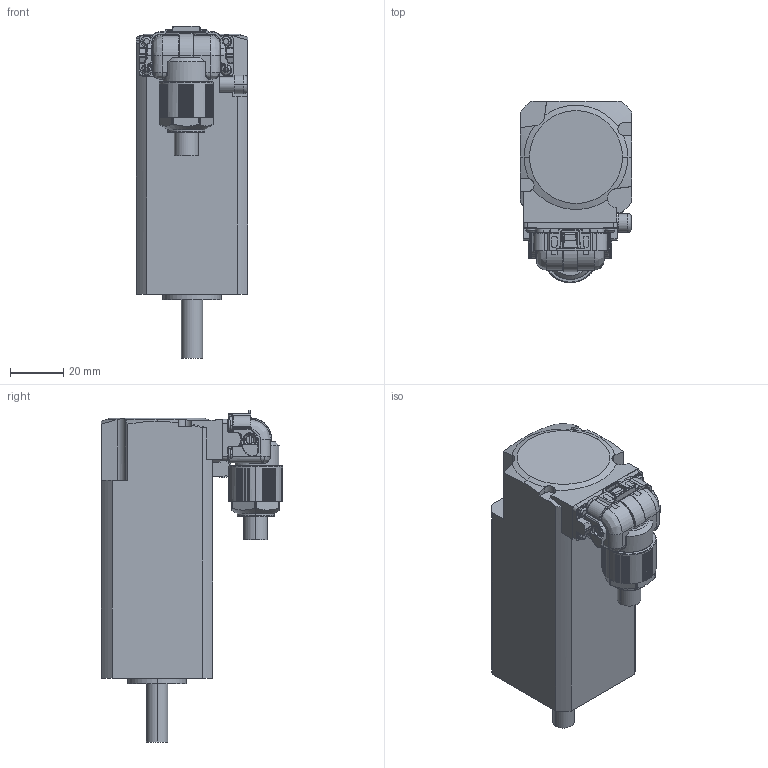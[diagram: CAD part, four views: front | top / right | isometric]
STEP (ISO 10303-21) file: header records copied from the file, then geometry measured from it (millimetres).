
FILE_DESCRIPTION (( 'STEP AP203' ), '1' );
FILE_NAME ('B1547_F.step', '2025-06-23T06:38:16', ( '' ), ( '' ), 'SwSTEP 2.0', 'SolidWorks 2023', '' );
FILE_SCHEMA (( 'CONFIG_CONTROL_DESIGN' ));
Length unit declared in the file: millimetre
Products named in the file (1): B1547_F
Bounding box: 42 x 68.3 x 125.05 mm (x, y, z)
Volume: 184662.3 mm3; surface area: 25175.5 mm2
Topology: 2 solids, 2 shells, 1035 faces, 2723 edges, 1678 vertices
Faces by surface type: plane 440, cylinder 384, bspline 148, cone 36, torus 27
Entity records: 35525 total; most frequent: CARTESIAN_POINT 11589, ORIENTED_EDGE 5386, DIRECTION 4527, EDGE_CURVE 2693, VERTEX_POINT 1678, AXIS2_PLACEMENT_3D 1557, VECTOR 1413, LINE 1413
